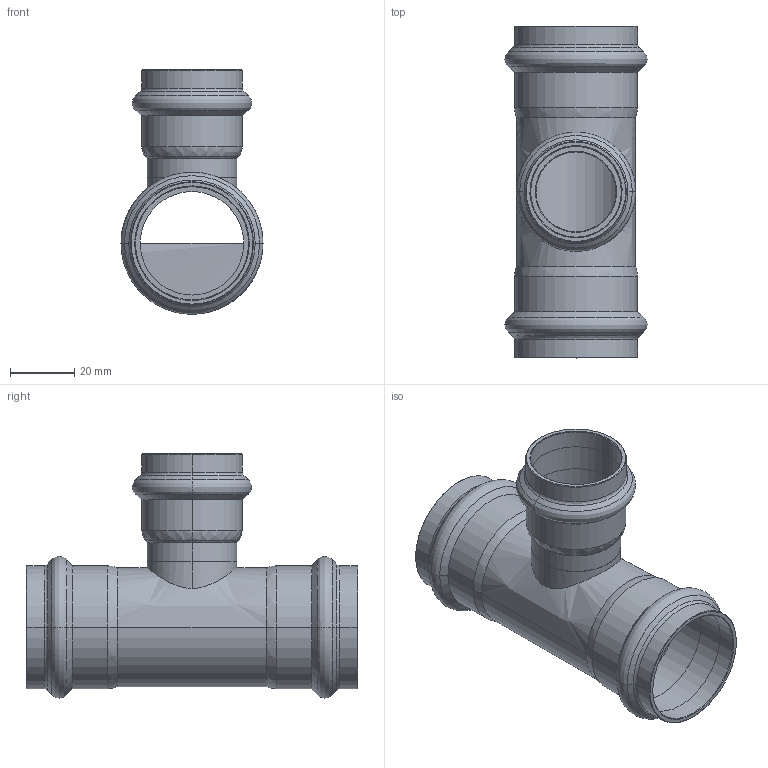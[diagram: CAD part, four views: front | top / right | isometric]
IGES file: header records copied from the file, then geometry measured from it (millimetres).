
Start section: Elysium IGES Interface
Global section: file name: C:\Users\Wallenburg\Desktop\3d modellen sudo\S-Pr VP\SP6130RV\6130RVW352835.igs; native system: CoCreate Modeling 17.00A  17-Jun-2010; preprocessor: CoCreate IGES_3D V2.2; author: Unknown; organization: Unknown; date: 20130117.140745; units: millimetre
Bounding box: 44.3 x 103.51 x 76.25 mm (x, y, z)
Volume: 28109.9 mm3; surface area: 31908.9 mm2
Topology: 1 solids, 1 shells, 128 faces, 276 edges, 150 vertices
Faces by surface type: bspline 128
